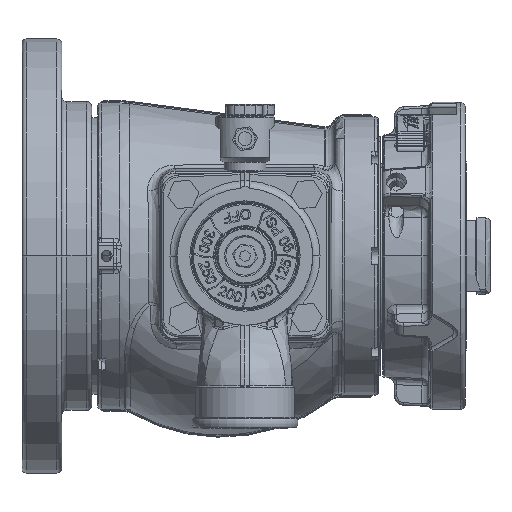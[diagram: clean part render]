
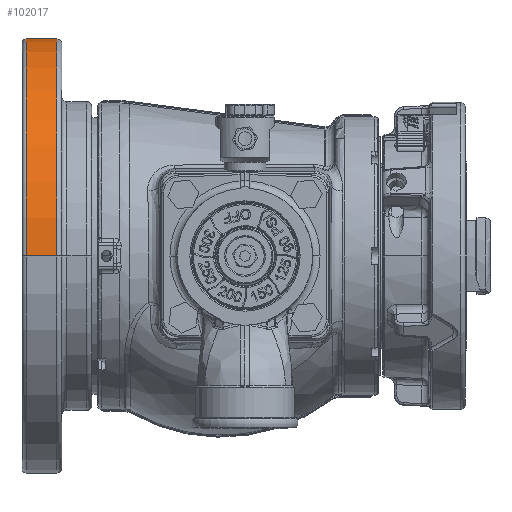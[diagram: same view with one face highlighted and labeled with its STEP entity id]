
A CAD part, front view. The second image highlights one B-rep face of the part: STEP entity #102017.
In plain terms, the highlighted cylindrical face has radius 138.43 mm (diameter 276.86 mm), a partial arc.
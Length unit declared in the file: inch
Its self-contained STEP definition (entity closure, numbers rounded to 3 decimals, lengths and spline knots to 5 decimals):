
#6556 = AXIS2_PLACEMENT_3D ( 'NONE', #34352, #34318, #34307 ) ;
#7892 = AXIS2_PLACEMENT_3D ( 'NONE', #105969, #105970, #105971 ) ;
#7909 = AXIS2_PLACEMENT_3D ( 'NONE', #106017, #106018, #106019 ) ;
#32101 = VERTEX_POINT ( 'NONE', #54047 ) ;
#32111 = VERTEX_POINT ( 'NONE', #54057 ) ;
#32200 = VERTEX_POINT ( 'NONE', #54146 ) ;
#32208 = VERTEX_POINT ( 'NONE', #54154 ) ;
#34307 = DIRECTION ( 'NONE',  ( 0., -1., 0. ) ) ;
#34318 = DIRECTION ( 'NONE',  ( -1., 0., 0. ) ) ;
#34352 = CARTESIAN_POINT ( 'NONE',  ( -6.0342, -0.44219, 0. ) ) ;
#54047 = CARTESIAN_POINT ( 'NONE',  ( -5.13415, 5.00781, 0. ) ) ;
#54057 = CARTESIAN_POINT ( 'NONE',  ( -5.13415, -5.89219, 0. ) ) ;
#54146 = CARTESIAN_POINT ( 'NONE',  ( -5.89635, 5.00781, 0. ) ) ;
#54154 = CARTESIAN_POINT ( 'NONE',  ( -5.89635, -5.89219, 0. ) ) ;
#84066 = EDGE_LOOP ( 'NONE', ( #96015, #96016, #96017, #96018 ) ) ;
#96015 = ORIENTED_EDGE ( 'NONE', *, *, #103815, .T. ) ;
#96016 = ORIENTED_EDGE ( 'NONE', *, *, #103825, .T. ) ;
#96017 = ORIENTED_EDGE ( 'NONE', *, *, #103828, .T. ) ;
#96018 = ORIENTED_EDGE ( 'NONE', *, *, #103839, .F. ) ;
#102017 = ADVANCED_FACE ( 'NONE', ( #120611 ), #120616, .T. ) ;
#103815 = EDGE_CURVE ( 'NONE', #32111, #32101, #104575, .T. ) ;
#103825 = EDGE_CURVE ( 'NONE', #32101, #32200, #104596, .T. ) ;
#103828 = EDGE_CURVE ( 'NONE', #32200, #32208, #104603, .T. ) ;
#103839 = EDGE_CURVE ( 'NONE', #32111, #32208, #104621, .T. ) ;
#104575 = CIRCLE ( 'NONE', #7892, 5.45 ) ;
#104596 = LINE ( 'NONE', #105984, #104599 ) ;
#104599 = VECTOR ( 'NONE', #106004, 39.37008 ) ;
#104603 = CIRCLE ( 'NONE', #7909, 5.45 ) ;
#104621 = LINE ( 'NONE', #106061, #104624 ) ;
#104624 = VECTOR ( 'NONE', #106063, 39.37008 ) ;
#105969 = CARTESIAN_POINT ( 'NONE',  ( -5.13415, -0.44219, 0. ) ) ;
#105970 = DIRECTION ( 'NONE',  ( -1., 0., 0. ) ) ;
#105971 = DIRECTION ( 'NONE',  ( 0., -1., 0. ) ) ;
#105984 = CARTESIAN_POINT ( 'NONE',  ( -6.0342, 5.00781, 0. ) ) ;
#106004 = DIRECTION ( 'NONE',  ( -1., 0., 0. ) ) ;
#106017 = CARTESIAN_POINT ( 'NONE',  ( -5.89635, -0.44219, 0. ) ) ;
#106018 = DIRECTION ( 'NONE',  ( 1., 0., 0. ) ) ;
#106019 = DIRECTION ( 'NONE',  ( 0., 1., 0. ) ) ;
#106061 = CARTESIAN_POINT ( 'NONE',  ( -6.0342, -5.89219, 0. ) ) ;
#106063 = DIRECTION ( 'NONE',  ( -1., 0., 0. ) ) ;
#120611 = FACE_OUTER_BOUND ( 'NONE', #84066, .T. ) ;
#120616 = CYLINDRICAL_SURFACE ( 'NONE', #6556, 5.45 ) ;
